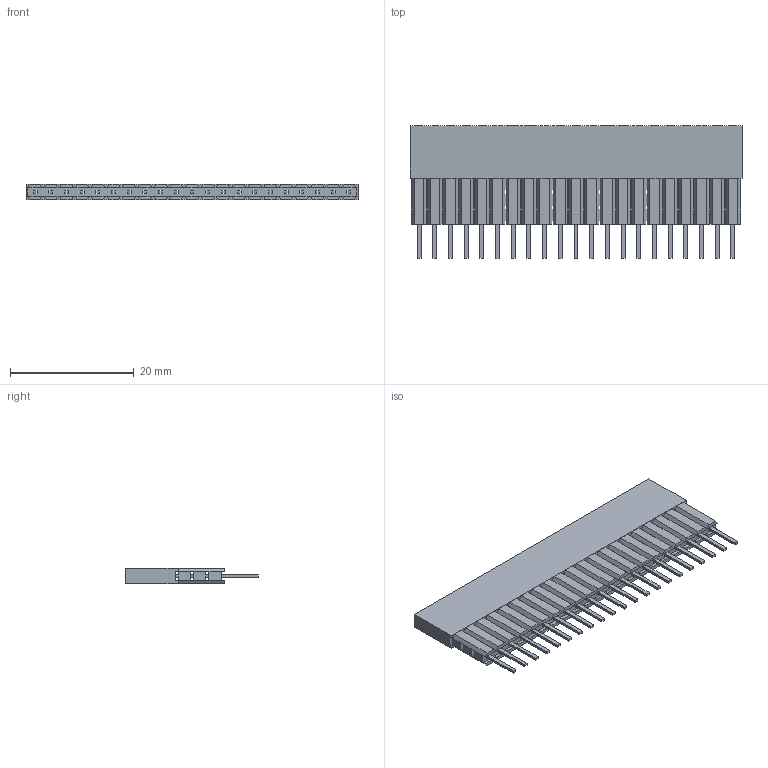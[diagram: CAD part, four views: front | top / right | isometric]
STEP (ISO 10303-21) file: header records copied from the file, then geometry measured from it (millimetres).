
FILE_DESCRIPTION(/* description */ (''),/* implementation_level */ '2;1');
FILE_NAME(/* name */ 'PM254-1-21-Z-C16.0-XX-3LP(L21.5)(2.54 单排 排母 直针 加3层塑胶-HCTL).stp',/* time_stamp */ '2026-10-24T15:56:24+08:00',/* author */ (''),/* organization */ (''),/* preprocessor_version */ 'ST-DEVELOPER v16',/* originating_system */ 'SIEMENS PLM Software NX 10.0',/* authorisation */ '');
FILE_SCHEMA (('AUTOMOTIVE_DESIGN { 1 0 10303 214 3 1 1 1 }'));
Length unit declared in the file: millimetre
Products named in the file (1): PM254-1-N-Z-C16.0-XX-3LP(L21.5)(2.54 单排 排母 
直针 加3层塑胶-HCTL)
Bounding box: 53.74 x 21.5 x 2.5 mm (x, y, z)
Volume: 1847.7 mm3; surface area: 4265.7 mm2
Topology: 2 solids, 2 shells, 994 faces, 3000 edges, 1804 vertices
Faces by surface type: plane 994
Entity records: 32937 total; most frequent: ORIENTED_EDGE 6000, CARTESIAN_POINT 5799, DIRECTION 4990, EDGE_CURVE 3000, LINE 3000, VECTOR 3000, VERTEX_POINT 1804, EDGE_LOOP 1162
